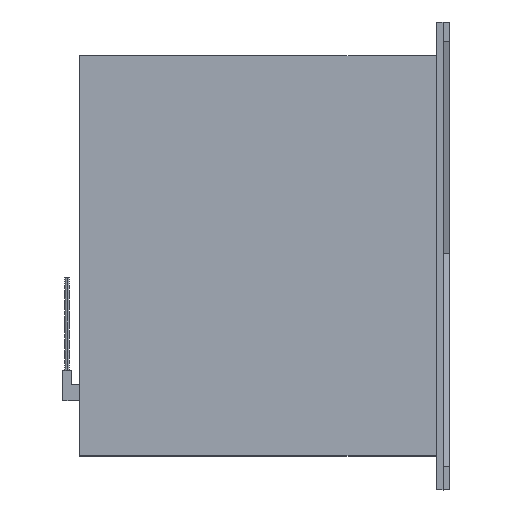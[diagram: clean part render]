
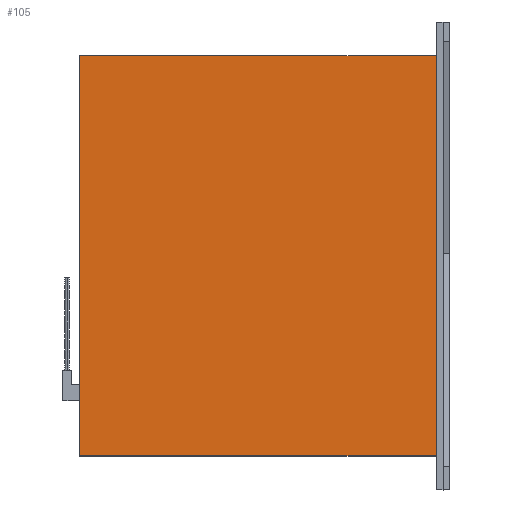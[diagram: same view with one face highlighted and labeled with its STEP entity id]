
A CAD part, top view. The second image highlights one B-rep face of the part: STEP entity #105.
In plain terms, the highlighted free-form (B-spline) face has degree [1, 1] with [2, 2] control points.
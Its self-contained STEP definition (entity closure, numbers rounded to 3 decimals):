
#105=ADVANCED_FACE('',(#149),#603,.T.);
#149=FACE_OUTER_BOUND('',#193,.T.);
#193=EDGE_LOOP('',(#387,#388,#389,#390));
#387=ORIENTED_EDGE('',*,*,#494,.F.);
#388=ORIENTED_EDGE('',*,*,#486,.T.);
#389=ORIENTED_EDGE('',*,*,#493,.T.);
#390=ORIENTED_EDGE('',*,*,#488,.F.);
#486=EDGE_CURVE('',#554,#556,#696,.T.);
#488=EDGE_CURVE('',#557,#559,#698,.T.);
#493=EDGE_CURVE('',#556,#559,#703,.T.);
#494=EDGE_CURVE('',#554,#557,#704,.T.);
#554=VERTEX_POINT('',#1423);
#556=VERTEX_POINT('',#1425);
#557=VERTEX_POINT('',#1426);
#559=VERTEX_POINT('',#1428);
#603=B_SPLINE_SURFACE_WITH_KNOTS('',1,1,((#1414,#1415),(#1416,#1417)),.UNSPECIFIED.,
.F.,.F.,.F.,(2,2),(2,2),(0.,1.),(0.,1.),.UNSPECIFIED.);
#696=B_SPLINE_CURVE_WITH_KNOTS('',1,(#1380,#1381),.UNSPECIFIED.,.F.,.F.,
(2,2),(0.,1.),.UNSPECIFIED.);
#698=B_SPLINE_CURVE_WITH_KNOTS('',1,(#1384,#1385),.UNSPECIFIED.,.F.,.F.,
(2,2),(0.,1.),.UNSPECIFIED.);
#703=B_SPLINE_CURVE_WITH_KNOTS('',1,(#1394,#1395),.UNSPECIFIED.,.F.,.F.,
(2,2),(0.,1.),.UNSPECIFIED.);
#704=B_SPLINE_CURVE_WITH_KNOTS('',1,(#1396,#1397),.UNSPECIFIED.,.F.,.F.,
(2,2),(0.,1.),.UNSPECIFIED.);
#1380=CARTESIAN_POINT('',(-578.185,323.798,268.028));
#1381=CARTESIAN_POINT('',(-578.185,-323.802,268.028));
#1384=CARTESIAN_POINT('',(0.476,323.798,268.028));
#1385=CARTESIAN_POINT('',(0.476,-323.802,268.028));
#1394=CARTESIAN_POINT('',(-578.185,-323.802,268.028));
#1395=CARTESIAN_POINT('',(0.476,-323.802,268.028));
#1396=CARTESIAN_POINT('',(-578.185,323.798,268.028));
#1397=CARTESIAN_POINT('',(0.476,323.798,268.028));
#1414=CARTESIAN_POINT('',(-578.185,323.798,268.028));
#1415=CARTESIAN_POINT('',(0.476,323.798,268.028));
#1416=CARTESIAN_POINT('',(-578.185,-323.802,268.028));
#1417=CARTESIAN_POINT('',(0.476,-323.802,268.028));
#1423=CARTESIAN_POINT('',(-578.185,323.798,268.028));
#1425=CARTESIAN_POINT('',(-578.185,-323.802,268.028));
#1426=CARTESIAN_POINT('',(0.476,323.798,268.028));
#1428=CARTESIAN_POINT('',(0.476,-323.802,268.028));
